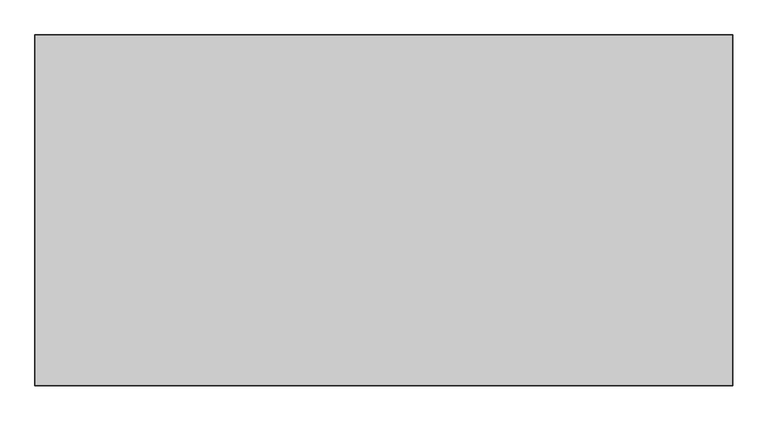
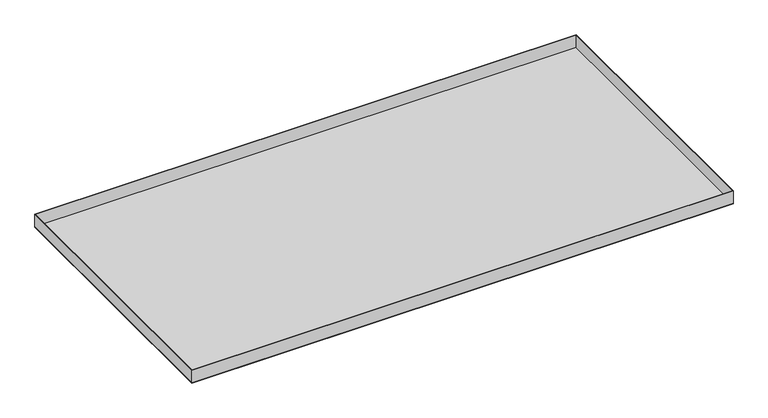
"""IFC4 building model written with IfcOpenShell, lengths in millimetres: proxy geometry, durlum_S4_panel : durlum_S4_panel."""

from ifc_helpers import new_model, si_unit, frame, origin, origin_with_axes, place, context, project, spatial, polyline, outline, extrude, source, transform, mapped, element, save


def generic_models_7de01034(model_context):
    return source(origin(), model_context, "Body", "SweptSolid", [
        extrude(outline(polyline([(595.0, 299.0), (595.0, -299.0), (-595.0, -299.0), (-595.0, 299.0), (595.0, 299.0)]), holes=[polyline([(594.0, 298.0), (-594.0, 298.0), (-594.0, -298.0), (594.0, -298.0), (594.0, 298.0)])]), frame((0.0, 0.0, 1.0), z_axis=(0.0, 0.0, 1.0), x_axis=(1.0, 0.0, 0.0)), (0.0, 0.0, 1.0), 29.0),
        extrude(outline(polyline([(594.0, 298.0), (594.0, -298.0), (-594.0, -298.0), (-594.0, 298.0), (594.0, 298.0)])), frame((0.0, 0.0, 1.0), z_axis=(0.0, 0.0, 1.0), x_axis=(1.0, 0.0, 0.0)), (0.0, 0.0, 1.0), 1.0),
        extrude(outline(polyline([(595.0, 299.0), (595.0, -299.0), (-595.0, -299.0), (-595.0, 299.0), (595.0, 299.0)])), origin_with_axes(), (0.0, 0.0, 1.0), 1.0),
    ])


if __name__ == "__main__":
    model = new_model("IFC4")
    model_context = context("Model", 3, world=origin())
    ifc_project = project(units=[si_unit("LENGTHUNIT", "METRE", prefix="MILLI")], contexts=[model_context])
    site = spatial("IfcSite", under=ifc_project)
    building = spatial("IfcBuilding", under=site)
    placement = place(None, origin())
    generic_models_shape = generic_models_7de01034(model_context)
    element("IfcBuildingElementProxy", 1, Name="durlum_S4_panel : durlum_S4_panel", ObjectType="durlum_S4_panel : durlum_S4_panel", at=placement, inside=building, context=model_context, shape_type="MappedRepresentation", body=[
        mapped(generic_models_shape, transform((0.0, 0.0, 0.0), x_axis=(1.0, 0.0, 0.0), y_axis=(0.0, 1.0, 0.0), z_axis=(0.0, 0.0, 1.0))),
    ])
    save(model, "model.ifc")
